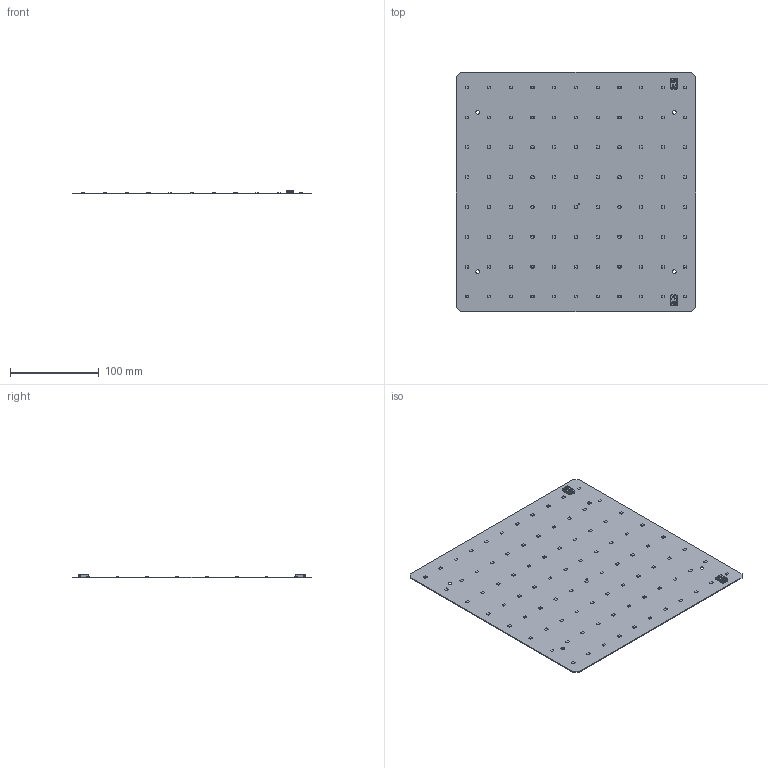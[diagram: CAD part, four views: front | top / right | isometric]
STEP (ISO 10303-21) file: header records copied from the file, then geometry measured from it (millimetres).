
FILE_DESCRIPTION((''),'2;1');
FILE_NAME('16208839_QLE-G5-270X270-ADV','2019-06-03T11:23:10',('bernhard.fink'),(''),'CREO PARAMETRIC BY PTC INC, 2017380','CREO PARAMETRIC BY PTC INC, 2017380','');
FILE_SCHEMA(('AUTOMOTIVE_DESIGN { 1 0 10303 214 1 1 1 1 }'));
Products named in the file (1): 16208839_QLE-G5-270X270-ADV
Bounding box: 270 x 270 x 4.45 mm (x, y, z)
Surface area: 148070.8 mm2 (no closed solid volume)
Topology: 0 solids, 1 shells, 2879 faces, 8062 edges, 5283 vertices
Faces by surface type: plane 1996, cylinder 576, bspline 201, cone 60, torus 30, sphere 16
Entity records: 124316 total; most frequent: CARTESIAN_POINT 27808, ORIENTED_EDGE 16118, DIRECTION 13042, PRESENTATION_STYLE_ASSIGNMENT 8068, STYLED_ITEM 8060, CURVE_STYLE 8059, EDGE_CURVE 8059, VECTOR 6244
